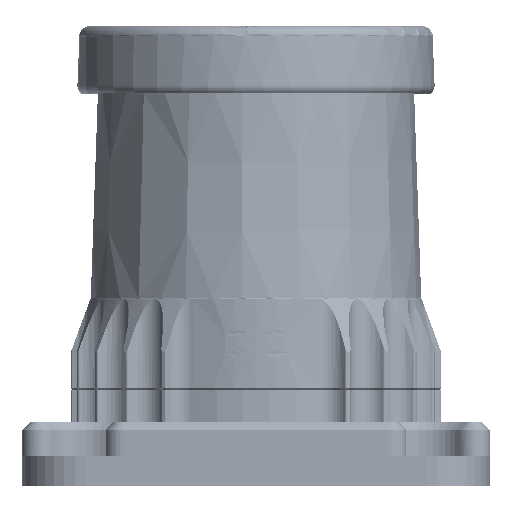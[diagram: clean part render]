
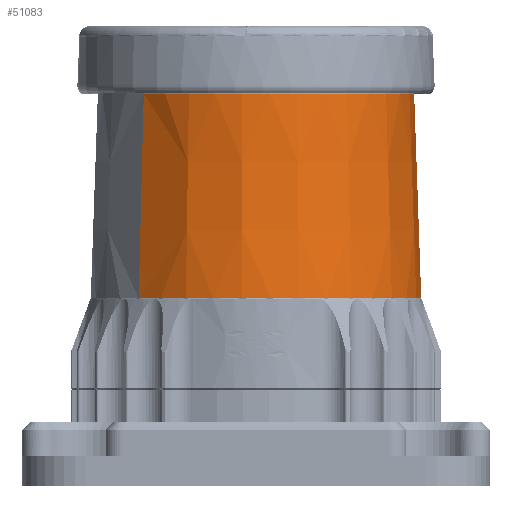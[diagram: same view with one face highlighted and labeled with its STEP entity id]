
A CAD part, top view. The second image highlights one B-rep face of the part: STEP entity #51083.
In plain terms, the highlighted conical face has half-angle 2 degrees and reference radius 37.078 mm.
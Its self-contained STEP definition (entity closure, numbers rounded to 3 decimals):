
#5502 = CARTESIAN_POINT ( 'NONE',  ( 0., 69.66, 0. ) ) ;
#5624 = VERTEX_POINT ( 'NONE', #179368 ) ;
#16942 = EDGE_LOOP ( 'NONE', ( #77209, #182335, #86535, #105455 ) ) ;
#23053 = DIRECTION ( 'NONE',  ( 0.707, 0., -0.707 ) ) ;
#25784 = DIRECTION ( 'NONE',  ( 0., -1., 0. ) ) ;
#36955 = EDGE_CURVE ( 'NONE', #58023, #43693, #79866, .T. ) ;
#43693 = VERTEX_POINT ( 'NONE', #128629 ) ;
#48988 = DIRECTION ( 'NONE',  ( -0.707, 0., 0.707 ) ) ;
#51083 = ADVANCED_FACE ( 'NONE', ( #79462 ), #154409, .T. ) ;
#54227 = CARTESIAN_POINT ( 'NONE',  ( 0., 21.565, 0. ) ) ;
#58023 = VERTEX_POINT ( 'NONE', #187265 ) ;
#60610 = CARTESIAN_POINT ( 'NONE',  ( 26.383, 69.66, -26.383 ) ) ;
#65304 = AXIS2_PLACEMENT_3D ( 'NONE', #5502, #141782, #23053 ) ;
#65689 = DIRECTION ( 'NONE',  ( 0., -1., 0. ) ) ;
#66656 = CARTESIAN_POINT ( 'NONE',  ( 0., 76.35, 0. ) ) ;
#73185 = EDGE_CURVE ( 'NONE', #176469, #5624, #150160, .T. ) ;
#73646 = DIRECTION ( 'NONE',  ( 0.025, -0.999, -0.025 ) ) ;
#77209 = ORIENTED_EDGE ( 'NONE', *, *, #73185, .F. ) ;
#77774 = AXIS2_PLACEMENT_3D ( 'NONE', #54227, #25784, #102255 ) ;
#79462 = FACE_OUTER_BOUND ( 'NONE', #16942, .T. ) ;
#79866 = LINE ( 'NONE', #168167, #108752 ) ;
#84097 = CIRCLE ( 'NONE', #65304, 37.312 ) ;
#86535 = ORIENTED_EDGE ( 'NONE', *, *, #36955, .T. ) ;
#88412 = CARTESIAN_POINT ( 'NONE',  ( 26.218, 76.35, -26.218 ) ) ;
#102255 = DIRECTION ( 'NONE',  ( -0.707, 0., 0.707 ) ) ;
#105455 = ORIENTED_EDGE ( 'NONE', *, *, #161369, .F. ) ;
#106039 = CIRCLE ( 'NONE', #77774, 38.991 ) ;
#107525 = AXIS2_PLACEMENT_3D ( 'NONE', #66656, #65689, #48988 ) ;
#108752 = VECTOR ( 'NONE', #139654, 1000. ) ;
#114083 = VECTOR ( 'NONE', #73646, 1000. ) ;
#128629 = CARTESIAN_POINT ( 'NONE',  ( -27.571, 21.565, 27.571 ) ) ;
#139654 = DIRECTION ( 'NONE',  ( -0.025, -0.999, 0.025 ) ) ;
#141782 = DIRECTION ( 'NONE',  ( 0., 1., 0. ) ) ;
#150160 = LINE ( 'NONE', #88412, #114083 ) ;
#154409 = CONICAL_SURFACE ( 'NONE', #107525, 37.078, 0.035 ) ;
#161369 = EDGE_CURVE ( 'NONE', #5624, #43693, #106039, .T. ) ;
#168167 = CARTESIAN_POINT ( 'NONE',  ( -26.218, 76.35, 26.218 ) ) ;
#176469 = VERTEX_POINT ( 'NONE', #60610 ) ;
#179368 = CARTESIAN_POINT ( 'NONE',  ( 27.571, 21.565, -27.571 ) ) ;
#182335 = ORIENTED_EDGE ( 'NONE', *, *, #192592, .F. ) ;
#187265 = CARTESIAN_POINT ( 'NONE',  ( -26.383, 69.66, 26.383 ) ) ;
#192592 = EDGE_CURVE ( 'NONE', #58023, #176469, #84097, .T. ) ;
